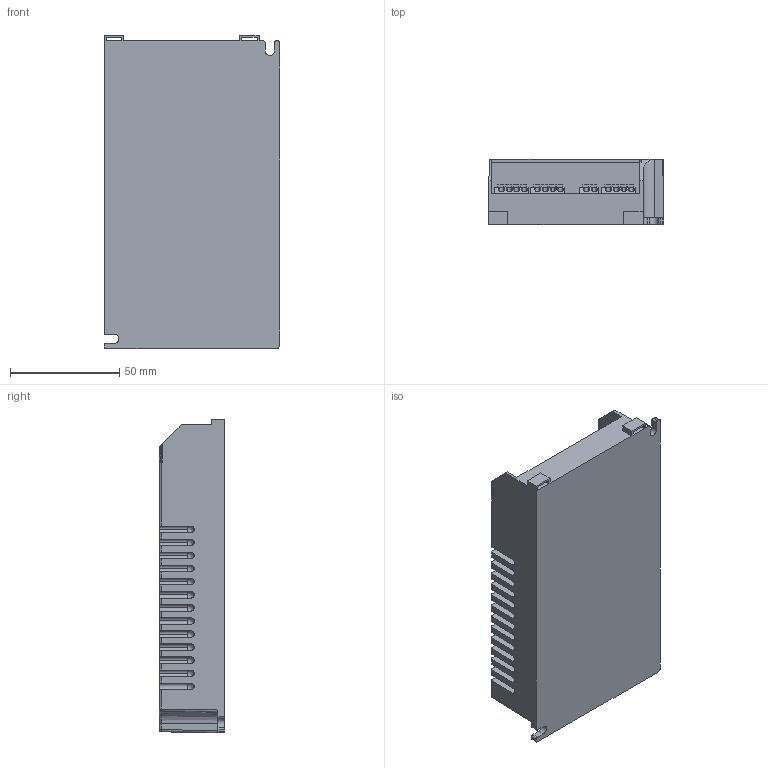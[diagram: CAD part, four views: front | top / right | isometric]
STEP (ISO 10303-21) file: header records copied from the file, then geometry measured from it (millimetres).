
FILE_DESCRIPTION (( 'STEP AP203' ), '1' );
FILE_NAME ('lc1x70-e-da.STEP', '2014-08-14T07:14:02', ( '' ), ( '' ), 'SwSTEP 2.0', 'SolidWorks 2014', '' );
FILE_SCHEMA (( 'CONFIG_CONTROL_DESIGN' ));
Length unit declared in the file: millimetre
Products named in the file (1): lc1x70-e-da
Bounding box: 80.5 x 30 x 143.8 mm (x, y, z)
Volume: 296161.3 mm3; surface area: 49890.2 mm2
Topology: 1 solids, 1 shells, 442 faces, 1252 edges, 828 vertices
Faces by surface type: plane 251, cylinder 166, bspline 24, cone 1
Entity records: 15206 total; most frequent: CARTESIAN_POINT 3986, ORIENTED_EDGE 2504, DIRECTION 2146, EDGE_CURVE 1252, VERTEX_POINT 828, VECTOR 786, LINE 786, AXIS2_PLACEMENT_3D 680
